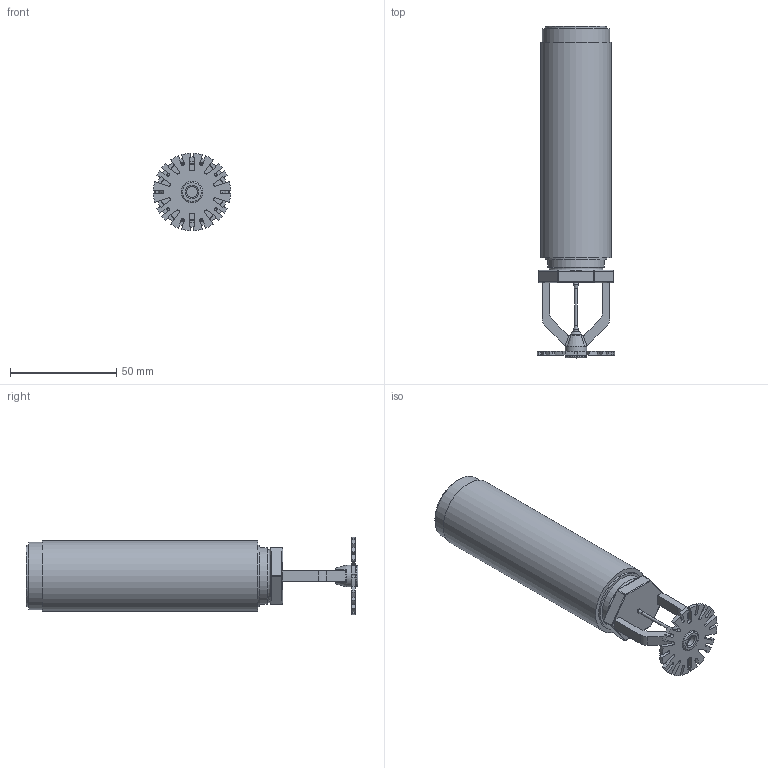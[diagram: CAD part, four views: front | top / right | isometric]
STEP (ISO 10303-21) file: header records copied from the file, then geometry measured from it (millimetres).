
FILE_DESCRIPTION(/* description */ ('VIC SPRINKLER V3614 K5.6 DRY PENDENT QUICK RESPONSE (NPT)'),/* implementation_level */ '2;1');
FILE_NAME(/* name */ 'C:\Users\Public\Documents\Victaulic.Temp\A641\Victaulic_FP-Sprinkler_V3614_DRY_QR_Pendent (NPT)_PLN_1 (25).stp',/* time_stamp */ '2024-09-24T08:14:23+02:00',/* author */ ('kkamble'),/* organization */ ('Victaulic'),/* preprocessor_version */ 'ST-DEVELOPER v18',/* originating_system */ 'Autodesk Inventor 2020',/* authorisation */ '');
FILE_SCHEMA (('AUTOMOTIVE_DESIGN { 1 0 10303 214 3 1 1 }'));
Length unit declared in the file: inch
Products named in the file (2): V3614_Plain-01.0; V3614-01
Assembly tree (1 placements, depth 2):
  V3614_Plain-01.0
    V3614-01
Bounding box: 36.48 x 156.53 x 36.48 mm (x, y, z)
Volume: 43954.4 mm3; surface area: 27817.3 mm2
Topology: 1 solids, 1 shells, 227 faces, 619 edges, 397 vertices
Faces by surface type: plane 107, cylinder 88, sphere 12, bspline 10, cone 6, torus 4
Full cylindrical faces by diameter (mm): 1.27 x1, 5.08 x2, 10.16 x2, 20.93 x1, 26.645 x1, 26.67 x1, 29.185 x1, 29.21 x1, 31.725 x1, 33.401 x1
Entity records: 7806 total; most frequent: CARTESIAN_POINT 1648, DIRECTION 1262, ORIENTED_EDGE 1228, EDGE_CURVE 614, AXIS2_PLACEMENT_3D 459, VERTEX_POINT 397, LINE 344, VECTOR 344
